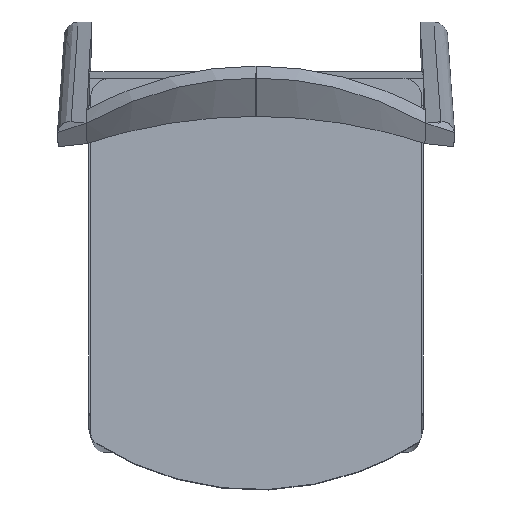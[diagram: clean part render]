
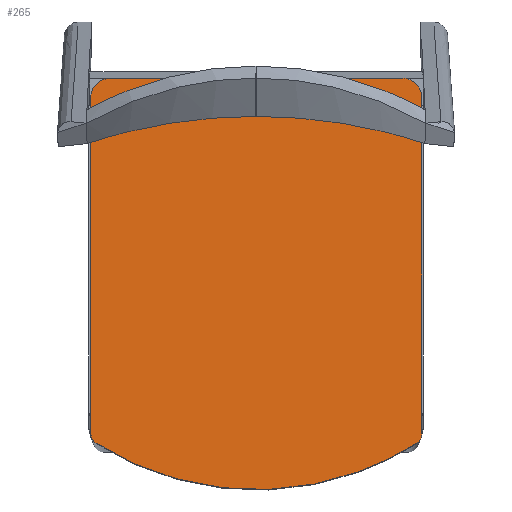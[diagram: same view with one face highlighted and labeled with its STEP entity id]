
A CAD part, top view. The second image highlights one B-rep face of the part: STEP entity #265.
In plain terms, the highlighted planar face has unit normal (0, 0.042, 0.999).
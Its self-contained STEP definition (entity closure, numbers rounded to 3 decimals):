
#265=ADVANCED_FACE('',(#339),#1299,.T.);
#339=FACE_OUTER_BOUND('',#413,.T.);
#413=EDGE_LOOP('',(#638,#639,#640,#641,#642,#643,#644,#645));
#638=ORIENTED_EDGE('',*,*,#830,.T.);
#639=ORIENTED_EDGE('',*,*,#834,.T.);
#640=ORIENTED_EDGE('',*,*,#837,.T.);
#641=ORIENTED_EDGE('',*,*,#840,.T.);
#642=ORIENTED_EDGE('',*,*,#843,.T.);
#643=ORIENTED_EDGE('',*,*,#846,.T.);
#644=ORIENTED_EDGE('',*,*,#849,.T.);
#645=ORIENTED_EDGE('',*,*,#851,.T.);
#830=EDGE_CURVE('',#1176,#1175,#933,.T.);
#834=EDGE_CURVE('',#1175,#1178,#937,.T.);
#837=EDGE_CURVE('',#1178,#1180,#940,.T.);
#840=EDGE_CURVE('',#1180,#1182,#943,.T.);
#843=EDGE_CURVE('',#1182,#1184,#946,.T.);
#846=EDGE_CURVE('',#1184,#1186,#949,.T.);
#849=EDGE_CURVE('',#1186,#1188,#952,.T.);
#851=EDGE_CURVE('',#1188,#1176,#954,.T.);
#933=(
BOUNDED_CURVE()
B_SPLINE_CURVE(2,(#1971,#1972,#1973),.UNSPECIFIED.,.F.,.F.)
B_SPLINE_CURVE_WITH_KNOTS((3,3),(-5737.979,-5698.709),
 .UNSPECIFIED.)
CURVE()
GEOMETRIC_REPRESENTATION_ITEM()
RATIONAL_B_SPLINE_CURVE((1.,0.707,1.))
REPRESENTATION_ITEM('')
);
#937=(
BOUNDED_CURVE()
B_SPLINE_CURVE(2,(#1981,#1982,#1983),.UNSPECIFIED.,.F.,.F.)
B_SPLINE_CURVE_WITH_KNOTS((3,3),(-5698.709,-5318.709),
 .UNSPECIFIED.)
CURVE()
GEOMETRIC_REPRESENTATION_ITEM()
RATIONAL_B_SPLINE_CURVE((1.,1.,1.))
REPRESENTATION_ITEM('')
);
#940=(
BOUNDED_CURVE()
B_SPLINE_CURVE(2,(#1989,#1990,#1991),.UNSPECIFIED.,.F.,.F.)
B_SPLINE_CURVE_WITH_KNOTS((3,3),(-5318.709,-5279.439),
 .UNSPECIFIED.)
CURVE()
GEOMETRIC_REPRESENTATION_ITEM()
RATIONAL_B_SPLINE_CURVE((1.,0.707,1.))
REPRESENTATION_ITEM('')
);
#943=(
BOUNDED_CURVE()
B_SPLINE_CURVE(2,(#1997,#1998,#1999),.UNSPECIFIED.,.F.,.F.)
B_SPLINE_CURVE_WITH_KNOTS((3,3),(-5279.439,-4862.577),
 .UNSPECIFIED.)
CURVE()
GEOMETRIC_REPRESENTATION_ITEM()
RATIONAL_B_SPLINE_CURVE((1.,1.,1.))
REPRESENTATION_ITEM('')
);
#946=(
BOUNDED_CURVE()
B_SPLINE_CURVE(2,(#2005,#2006,#2007),.UNSPECIFIED.,.F.,.F.)
B_SPLINE_CURVE_WITH_KNOTS((3,3),(-4862.577,-4847.502),
 .UNSPECIFIED.)
CURVE()
GEOMETRIC_REPRESENTATION_ITEM()
RATIONAL_B_SPLINE_CURVE((1.,0.876,1.))
REPRESENTATION_ITEM('')
);
#949=(
BOUNDED_CURVE()
B_SPLINE_CURVE(2,(#2013,#2014,#2015),.UNSPECIFIED.,.F.,.F.)
B_SPLINE_CURVE_WITH_KNOTS((3,3),(-4847.502,-4408.363),
 .UNSPECIFIED.)
CURVE()
GEOMETRIC_REPRESENTATION_ITEM()
RATIONAL_B_SPLINE_CURVE((1.,0.844,1.))
REPRESENTATION_ITEM('')
);
#952=(
BOUNDED_CURVE()
B_SPLINE_CURVE(2,(#2021,#2022,#2023),.UNSPECIFIED.,.F.,.F.)
B_SPLINE_CURVE_WITH_KNOTS((3,3),(-4408.363,-4393.287),
 .UNSPECIFIED.)
CURVE()
GEOMETRIC_REPRESENTATION_ITEM()
RATIONAL_B_SPLINE_CURVE((1.,0.876,1.))
REPRESENTATION_ITEM('')
);
#954=(
BOUNDED_CURVE()
B_SPLINE_CURVE(2,(#2027,#2028,#2029),.UNSPECIFIED.,.F.,.F.)
B_SPLINE_CURVE_WITH_KNOTS((3,3),(-4393.287,-3976.426),
 .UNSPECIFIED.)
CURVE()
GEOMETRIC_REPRESENTATION_ITEM()
RATIONAL_B_SPLINE_CURVE((1.,1.,1.))
REPRESENTATION_ITEM('')
);
#1175=VERTEX_POINT('',#1952);
#1176=VERTEX_POINT('',#1953);
#1178=VERTEX_POINT('',#1955);
#1180=VERTEX_POINT('',#1957);
#1182=VERTEX_POINT('',#1959);
#1184=VERTEX_POINT('',#1961);
#1186=VERTEX_POINT('',#1963);
#1188=VERTEX_POINT('',#1965);
#1299=PLANE('',#1343);
#1343=AXIS2_PLACEMENT_3D('',#1949,#1372,$);
#1372=DIRECTION('',(0.,0.042,0.999));
#1949=CARTESIAN_POINT('',(269.29,351.635,443.463));
#1952=CARTESIAN_POINT('',(190.54,284.819,446.277));
#1953=CARTESIAN_POINT('',(215.54,259.841,447.329));
#1955=CARTESIAN_POINT('',(-189.46,284.819,446.277));
#1957=CARTESIAN_POINT('',(-214.46,259.841,447.329));
#1959=CARTESIAN_POINT('',(-214.46,-176.634,465.712));
#1961=CARTESIAN_POINT('',(-207.501,-189.285,466.245));
#1963=CARTESIAN_POINT('',(208.582,-189.285,466.245));
#1965=CARTESIAN_POINT('',(215.54,-176.634,465.712));
#1971=CARTESIAN_POINT('',(215.54,259.841,447.329));
#1972=CARTESIAN_POINT('',(215.54,284.819,446.277));
#1973=CARTESIAN_POINT('',(190.54,284.819,446.277));
#1981=CARTESIAN_POINT('',(190.54,284.819,446.277));
#1982=CARTESIAN_POINT('',(0.54,284.819,446.277));
#1983=CARTESIAN_POINT('',(-189.46,284.819,446.277));
#1989=CARTESIAN_POINT('',(-189.46,284.819,446.277));
#1990=CARTESIAN_POINT('',(-214.46,284.819,446.277));
#1991=CARTESIAN_POINT('',(-214.46,259.841,447.329));
#1997=CARTESIAN_POINT('',(-214.46,259.841,447.329));
#1998=CARTESIAN_POINT('',(-214.46,41.604,456.521));
#1999=CARTESIAN_POINT('',(-214.46,-176.634,465.712));
#2005=CARTESIAN_POINT('',(-214.46,-176.634,465.712));
#2006=CARTESIAN_POINT('',(-214.46,-184.87,466.059));
#2007=CARTESIAN_POINT('',(-207.501,-189.285,466.245));
#2013=CARTESIAN_POINT('',(-207.501,-189.285,466.245));
#2014=CARTESIAN_POINT('',(0.54,-321.283,471.804));
#2015=CARTESIAN_POINT('',(208.582,-189.285,466.245));
#2021=CARTESIAN_POINT('',(208.582,-189.285,466.245));
#2022=CARTESIAN_POINT('',(215.54,-184.87,466.059));
#2023=CARTESIAN_POINT('',(215.54,-176.634,465.712));
#2027=CARTESIAN_POINT('',(215.54,-176.634,465.712));
#2028=CARTESIAN_POINT('',(215.54,41.604,456.521));
#2029=CARTESIAN_POINT('',(215.54,259.841,447.329));
